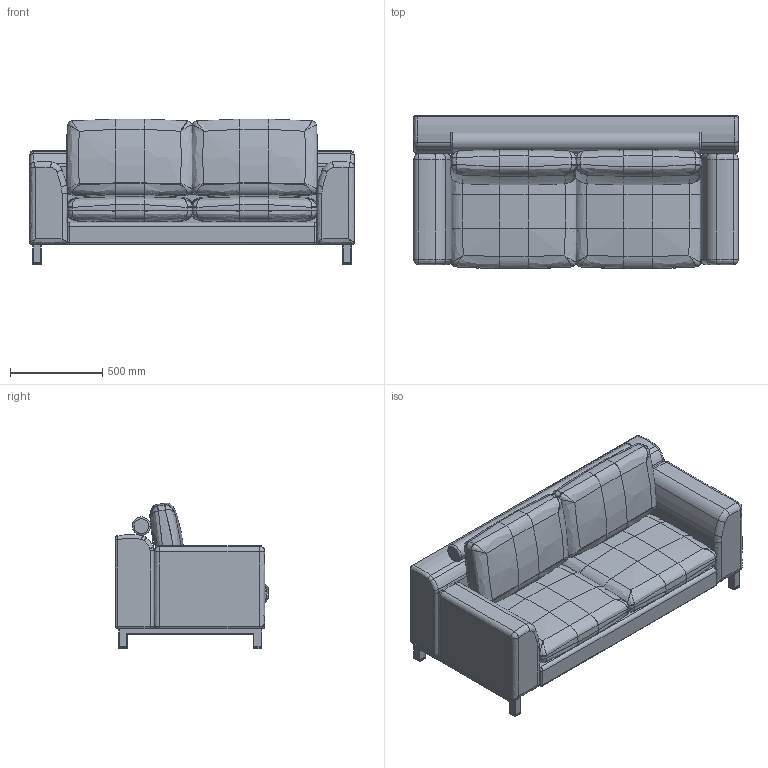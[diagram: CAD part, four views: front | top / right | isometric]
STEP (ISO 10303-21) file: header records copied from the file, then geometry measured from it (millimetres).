
FILE_DESCRIPTION(/* description */ (''),/* implementation_level */ '2;1');
FILE_NAME(/* name */ 'KINOSH~2',/* time_stamp */ '2019-07-19T11:17:10+09:00',/* author */ (''),/* organization */ (''),/* preprocessor_version */ 'ST-DEVELOPER v15',/* originating_system */ '',/* authorisation */ '');
FILE_SCHEMA (('AUTOMOTIVE_DESIGN'));
Length unit declared in the file: millimetre
Products named in the file (5): Document; ﾌﾞﾛｯｸ 86; ﾌﾞﾛｯｸ 87; ﾌﾞﾛｯｸ 88; ﾌﾞﾛｯｸ 89
Assembly tree (4 placements, depth 2):
  Document
    ﾌﾞﾛｯｸ 86
    ﾌﾞﾛｯｸ 87
    ﾌﾞﾛｯｸ 88
    ﾌﾞﾛｯｸ 89
Bounding box: 1760 x 830 x 789.77 mm (x, y, z)
Volume: 398082590.1 mm3; surface area: 10707974.1 mm2
Topology: 11 solids, 45 shells, 582 faces, 1594 edges, 880 vertices
Faces by surface type: bspline 511, plane 71
Entity records: 98703 total; most frequent: CARTESIAN_POINT 90499, ORIENTED_EDGE 2472, EDGE_CURVE 1530, B_SPLINE_CURVE_WITH_KNOTS 970, VERTEX_POINT 880, ADVANCED_FACE 582, FACE_OUTER_BOUND 582, EDGE_LOOP 582
